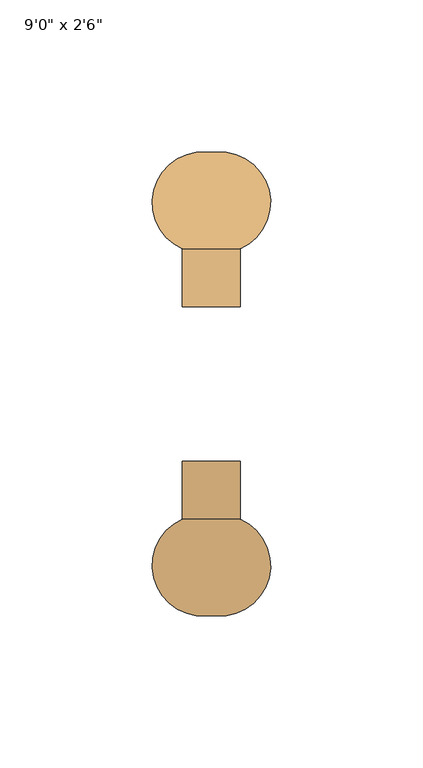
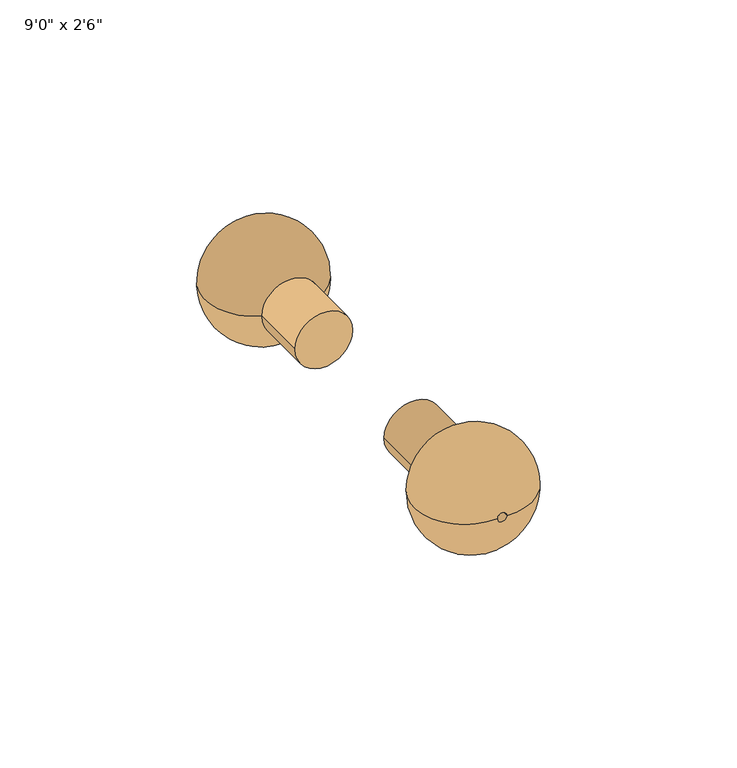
"""IFC4 building model written with IfcOpenShell, lengths in millimetres: door geometry."""

from ifc_helpers import new_model, si_unit, point, frame, frame_2d, origin, place, context, project, spatial, polyline, circle_curve, ellipse_curve, trimmed, segment, composite_curve, outline, extrude, source, transform, mapped, element, save
from ifc_brep_helpers import plane_surface, revolved_surface, advanced_brep


def door_17e05137(model_context):
    return source(origin(), model_context, "Body", "SolidModel", [
        advanced_brep(
        [(-307.975, -88.9, 1016.0), (-307.975, -69.85, 1016.0), (-327.025, -69.85, 1016.0), (-327.025, -88.9, 1016.0), (-315.9125, -101.6, 1016.0), (-315.9125, -88.9, 1016.0), (-319.0875, -88.9, 1016.0), (-319.0875, -101.6, 1016.0)],
        [
            (0, 1),
            (1, 2, circle_curve(frame((-317.5, -69.85, 1016.0), z_axis=(0.0, 1.0, 0.0), x_axis=(-1.0, 0.0, 0.0)), 9.525)),
            (2, 3),
            (3, 0, circle_curve(frame((-317.5, -88.9, 1016.0), z_axis=(0.0, -1.0, 0.0), x_axis=(-1.0, 0.0, 0.0)), 9.525)),
            (4, 5),
            (5, 6, circle_curve(frame((-317.5, -88.9, 1016.0), z_axis=(0.0, 1.0, 0.0), x_axis=(-1.0, 0.0, 0.0)), 1.5875)),
            (6, 7),
            (7, 4, circle_curve(frame((-317.5, -101.6, 1016.0), z_axis=(0.0, -1.0, 0.0), x_axis=(-1.0, 0.0, 0.0)), 1.5875)),
            (1, 4, circle_curve(frame((-314.6208622, -85.055722, 1016.0), z_axis=(0.0, 0.0, -1.0), x_axis=(1.0, 0.0, 0.0)), 16.5946215)),
            (7, 2, circle_curve(frame((-320.3791378, -85.055722, 1016.0), z_axis=(0.0, 0.0, -1.0), x_axis=(-1.0, 0.0, 0.0)), 16.5946215)),
            (2, 1, circle_curve(frame((-317.5, -69.85, 1016.0), z_axis=(0.0, 1.0, 0.0), x_axis=(1.0, 0.0, 0.0)), 9.525)),
            (0, 3, circle_curve(frame((-317.5, -88.9, 1016.0), z_axis=(0.0, -1.0, 0.0), x_axis=(1.0, 0.0, 0.0)), 9.525)),
            (5, 6, circle_curve(frame((-317.5, -88.9, 1016.0), z_axis=(0.0, -1.0, 0.0), x_axis=(1.0, 0.0, 0.0)), 1.5875)),
            (4, 7, circle_curve(frame((-317.5, -101.6, 1016.0), z_axis=(0.0, -1.0, 0.0), x_axis=(1.0, 0.0, 0.0)), 1.5875)),
        ],
        [
            revolved_surface(polyline([(-327.025, -69.85, 1016.0), (-327.025, -88.9, 1016.0)]), (-317.5, -88.9, 1016.0), (0.0, 1.0, 0.0)),
            revolved_surface(polyline([(-319.0875, -88.9, 1016.0), (-319.0875, -101.6, 1016.0)]), (-317.5, -88.9, 1016.0), (0.0, 1.0, 0.0)),
            revolved_surface(trimmed(ellipse_curve(frame((-320.3791378, -85.055722, 1016.0), z_axis=(0.0, 0.0, -1.0), x_axis=(-1.0, 0.0, 0.0)), 16.5946215, 16.5946215), [point((-319.0875, -101.6, 1016.0))], [point((-327.025, -69.85, 1016.0))], True, "CARTESIAN"), (-317.5, -88.9, 1016.0), (0.0, 1.0, 0.0)),
            revolved_surface(polyline([(-307.975, -69.85, 1016.0), (-307.975, -88.9, 1016.0)]), (-317.5, -88.9, 1016.0), (0.0, 1.0, 0.0)),
            plane_surface(frame((-317.5, -88.9, 1016.0), z_axis=(0.0, 1.0, 0.0), x_axis=(1.0, 0.0, 0.0))),
            revolved_surface(polyline([(-315.9125, -88.9, 1016.0), (-315.9125, -101.6, 1016.0)]), (-317.5, -88.9, 1016.0), (0.0, 1.0, 0.0)),
            revolved_surface(trimmed(ellipse_curve(frame((-314.6208622, -85.055722, 1016.0), z_axis=(0.0, 0.0, 1.0), x_axis=(1.0, 0.0, 0.0)), 16.5946215, 16.5946215), [point((-315.9125, -101.6, 1016.0))], [point((-307.975, -69.85, 1016.0))], True, "CARTESIAN"), (-317.5, -88.9, 1016.0), (0.0, 1.0, 0.0)),
        ],
        [
            (0, [[1, 2, 3, 4]]),
            (1, [[5, 6, 7, 8]]),
            (2, [[9, -8, 10, -2]]),
            (3, [[-3, 11, -1, 12]]),
            (4, [[-4, -12], [-6, 13]]),
            (5, [[-7, -13, -5, 14]]),
            (6, [[-10, -14, -9, -11]]),
        ],
    ),
        extrude(outline(composite_curve([segment(trimmed(circle_curve(frame_2d((1016.0, -317.5)), 9.525), [point((1016.0, -307.975))], [point((1016.0, -327.025))], False, "CARTESIAN"), True, "CONTINUOUS"), segment(trimmed(circle_curve(frame_2d((1016.0, -317.5)), 9.525), [point((1016.0, -327.025))], [point((1016.0, -307.975))], False, "CARTESIAN"), True, "CONTINUOUS")], self_intersect=False)), frame((0.0, -88.9, 0.0), z_axis=(0.0, 1.0, 0.0), x_axis=(0.0, 0.0, 1.0)), (0.0, 0.0, 1.0), 38.1),
        advanced_brep(
        [(-327.025, 38.1, 1016.0), (-327.025, 19.05, 1016.0), (-307.975, 19.05, 1016.0), (-307.975, 38.1, 1016.0), (-319.0875, 50.8, 1016.0), (-319.0875, 38.1, 1016.0), (-315.9125, 38.1, 1016.0), (-315.9125, 50.8, 1016.0)],
        [
            (0, 1),
            (1, 2, circle_curve(frame((-317.5, 19.05, 1016.0), z_axis=(0.0, -1.0, 0.0), x_axis=(1.0, 0.0, 0.0)), 9.525)),
            (2, 3),
            (3, 0, circle_curve(frame((-317.5, 38.1, 1016.0), z_axis=(0.0, 1.0, 0.0), x_axis=(1.0, 0.0, 0.0)), 9.525)),
            (4, 5),
            (5, 6, circle_curve(frame((-317.5, 38.1, 1016.0), z_axis=(0.0, -1.0, 0.0), x_axis=(1.0, 0.0, 0.0)), 1.5875)),
            (6, 7),
            (7, 4, circle_curve(frame((-317.5, 50.8, 1016.0), z_axis=(0.0, 1.0, 0.0), x_axis=(1.0, 0.0, 0.0)), 1.5875)),
            (1, 4, circle_curve(frame((-320.3791378, 34.255722, 1016.0), z_axis=(0.0, 0.0, -1.0), x_axis=(-1.0, 0.0, 0.0)), 16.5946215)),
            (7, 2, circle_curve(frame((-314.6208622, 34.255722, 1016.0), z_axis=(0.0, 0.0, -1.0), x_axis=(1.0, 0.0, 0.0)), 16.5946215)),
            (2, 1, circle_curve(frame((-317.5, 19.05, 1016.0), z_axis=(0.0, -1.0, 0.0), x_axis=(-1.0, 0.0, 0.0)), 9.525)),
            (0, 3, circle_curve(frame((-317.5, 38.1, 1016.0), z_axis=(0.0, 1.0, 0.0), x_axis=(-1.0, 0.0, 0.0)), 9.525)),
            (5, 6, circle_curve(frame((-317.5, 38.1, 1016.0), z_axis=(0.0, 1.0, 0.0), x_axis=(-1.0, 0.0, 0.0)), 1.5875)),
            (4, 7, circle_curve(frame((-317.5, 50.8, 1016.0), z_axis=(0.0, 1.0, 0.0), x_axis=(-1.0, 0.0, 0.0)), 1.5875)),
        ],
        [
            revolved_surface(polyline([(-307.975, 19.05, 1016.0), (-307.975, 38.1, 1016.0)]), (-317.5, 38.1, 1016.0), (0.0, -1.0, 0.0)),
            revolved_surface(polyline([(-315.9125, 38.1, 1016.0), (-315.9125, 50.8, 1016.0)]), (-317.5, 38.1, 1016.0), (0.0, -1.0, 0.0)),
            revolved_surface(trimmed(ellipse_curve(frame((-314.6208622, 34.255722, 1016.0), z_axis=(0.0, 0.0, -1.0), x_axis=(1.0, 0.0, 0.0)), 16.5946215, 16.5946215), [point((-315.9125, 50.8, 1016.0))], [point((-307.975, 19.05, 1016.0))], True, "CARTESIAN"), (-317.5, 38.1, 1016.0), (0.0, -1.0, 0.0)),
            revolved_surface(polyline([(-327.025, 19.05, 1016.0), (-327.025, 38.1, 1016.0)]), (-317.5, 38.1, 1016.0), (0.0, -1.0, 0.0)),
            plane_surface(frame((-317.5, 38.1, 1016.0), z_axis=(0.0, -1.0, 0.0), x_axis=(-1.0, 0.0, 0.0))),
            revolved_surface(polyline([(-319.0875, 38.1, 1016.0), (-319.0875, 50.8, 1016.0)]), (-317.5, 38.1, 1016.0), (0.0, -1.0, 0.0)),
            revolved_surface(trimmed(ellipse_curve(frame((-320.3791378, 34.255722, 1016.0), z_axis=(0.0, 0.0, 1.0), x_axis=(-1.0, 0.0, 0.0)), 16.5946215, 16.5946215), [point((-319.0875, 50.8, 1016.0))], [point((-327.025, 19.05, 1016.0))], True, "CARTESIAN"), (-317.5, 38.1, 1016.0), (0.0, -1.0, 0.0)),
        ],
        [
            (0, [[1, 2, 3, 4]]),
            (1, [[5, 6, 7, 8]]),
            (2, [[9, -8, 10, -2]]),
            (3, [[-3, 11, -1, 12]]),
            (4, [[-4, -12], [-6, 13]]),
            (5, [[-7, -13, -5, 14]]),
            (6, [[-10, -14, -9, -11]]),
        ],
    ),
        extrude(outline(composite_curve([segment(trimmed(circle_curve(frame_2d((1016.0, -317.5)), 9.525), [point((1016.0, -307.975))], [point((1016.0, -327.025))], False, "CARTESIAN"), True, "CONTINUOUS"), segment(trimmed(circle_curve(frame_2d((1016.0, -317.5)), 9.525), [point((1016.0, -327.025))], [point((1016.0, -307.975))], False, "CARTESIAN"), True, "CONTINUOUS")], self_intersect=False)), frame((0.0, 0.0, 0.0), z_axis=(0.0, 1.0, 0.0), x_axis=(0.0, 0.0, 1.0)), (0.0, 0.0, 1.0), 38.1),
    ])


if __name__ == "__main__":
    model = new_model("IFC4")
    model_context = context("Model", 3, world=origin())
    ifc_project = project(units=[si_unit("LENGTHUNIT", "METRE", prefix="MILLI")], contexts=[model_context])
    site = spatial("IfcSite", under=ifc_project)
    building = spatial("IfcBuilding", under=site)
    placement = place(None, origin())
    door_shape = door_17e05137(model_context)
    element("IfcDoor", 1, ObjectType="Planitar - Single Door_Swapper : 9'0\" x 2'6\"", at=placement, inside=building, context=model_context, shape_type="MappedRepresentation", body=[
        mapped(door_shape, transform((0.0, 0.0, 0.0), x_axis=(1.0, 0.0, 0.0), y_axis=(0.0, 1.0, 0.0), z_axis=(0.0, 0.0, 1.0))),
    ])
    save(model, "model.ifc")
